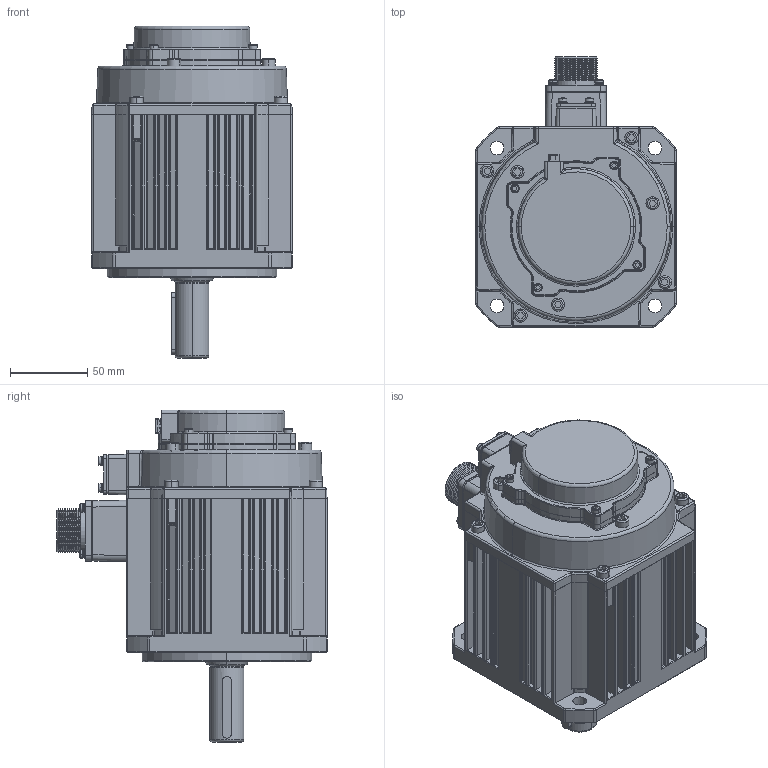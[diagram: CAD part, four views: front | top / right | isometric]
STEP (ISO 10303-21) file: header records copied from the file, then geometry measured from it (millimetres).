
FILE_DESCRIPTION (( 'STEP AP203' ), '1' );
FILE_NAME ('G3系列130伺服-1300W刹车电机三维图-三竹插拔式.STEP', '2023-05-17T08:36:03', ( '微软用户' ), ( '微软中国' ), 'SwSTEP 2.0', 'SolidWorks 2016', '' );
FILE_SCHEMA (( 'CONFIG_CONTROL_DESIGN' ));
Products named in the file (1): G3系列130伺服-1300W刹车电机三维图-三竹插拔式
Bounding box: 130 x 175.3 x 215.5 mm (x, y, z)
Surface area: 299130.1 mm2 (no closed solid volume)
Topology: 0 solids, 30 shells, 3957 faces, 10131 edges, 6346 vertices
Faces by surface type: plane 1673, cylinder 873, cone 552, bspline 509, torus 275, sphere 75
Entity records: 136704 total; most frequent: CARTESIAN_POINT 43770, ORIENTED_EDGE 20030, DIRECTION 18393, EDGE_CURVE 10029, AXIS2_PLACEMENT_3D 6351, VERTEX_POINT 6334, LINE 5691, VECTOR 5691
